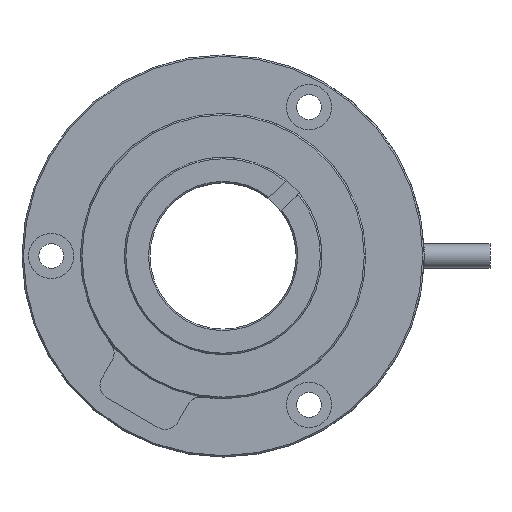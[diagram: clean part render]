
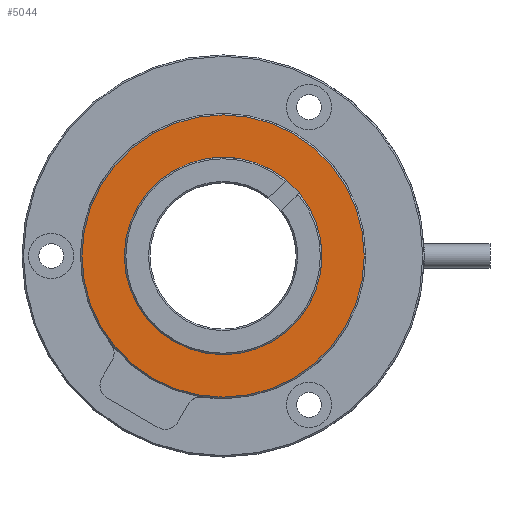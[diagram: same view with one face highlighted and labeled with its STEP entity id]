
A CAD part, front view. The second image highlights one B-rep face of the part: STEP entity #5044.
In plain terms, the highlighted planar face has unit normal (0, -1, 0).
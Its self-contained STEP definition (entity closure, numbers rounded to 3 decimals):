
#78 = DIRECTION ( 'NONE',  ( 0., 0., 1. ) ) ;
#435 = EDGE_CURVE ( 'NONE', #2929, #8805, #8440, .T. ) ;
#482 = EDGE_CURVE ( 'NONE', #4474, #5497, #2360, .T. ) ;
#662 = ORIENTED_EDGE ( 'NONE', *, *, #435, .T. ) ;
#771 = CIRCLE ( 'NONE', #2192, 19.3 ) ;
#1198 = DIRECTION ( 'NONE',  ( 0., 0., 1. ) ) ;
#1244 = FACE_OUTER_BOUND ( 'NONE', #10852, .T. ) ;
#2192 = AXIS2_PLACEMENT_3D ( 'NONE', #6435, #8035, #7975 ) ;
#2234 = FACE_BOUND ( 'NONE', #8830, .T. ) ;
#2360 = CIRCLE ( 'NONE', #5231, 13.5 ) ;
#2430 = ORIENTED_EDGE ( 'NONE', *, *, #2576, .F. ) ;
#2576 = EDGE_CURVE ( 'NONE', #5497, #4474, #8026, .T. ) ;
#2929 = VERTEX_POINT ( 'NONE', #5572 ) ;
#3080 = DIRECTION ( 'NONE',  ( 0., 1., 0. ) ) ;
#3208 = AXIS2_PLACEMENT_3D ( 'NONE', #6428, #8293, #7345 ) ;
#3258 = DIRECTION ( 'NONE',  ( 0., -1., 0. ) ) ;
#4474 = VERTEX_POINT ( 'NONE', #11032 ) ;
#4955 = CARTESIAN_POINT ( 'NONE',  ( 0., -7.3, -13.5 ) ) ;
#5044 = ADVANCED_FACE ( 'NONE', ( #1244, #2234 ), #10682, .F. ) ;
#5094 = CARTESIAN_POINT ( 'NONE',  ( 0., -7.3, 0. ) ) ;
#5231 = AXIS2_PLACEMENT_3D ( 'NONE', #9209, #5800, #78 ) ;
#5497 = VERTEX_POINT ( 'NONE', #4955 ) ;
#5572 = CARTESIAN_POINT ( 'NONE',  ( 0., -7.3, -19.3 ) ) ;
#5800 = DIRECTION ( 'NONE',  ( 0., -1., 0. ) ) ;
#6428 = CARTESIAN_POINT ( 'NONE',  ( 0., -7.3, 0. ) ) ;
#6435 = CARTESIAN_POINT ( 'NONE',  ( 0., -7.3, 0. ) ) ;
#6437 = ORIENTED_EDGE ( 'NONE', *, *, #6965, .T. ) ;
#6965 = EDGE_CURVE ( 'NONE', #8805, #2929, #771, .T. ) ;
#7345 = DIRECTION ( 'NONE',  ( 0., 0., 1. ) ) ;
#7422 = AXIS2_PLACEMENT_3D ( 'NONE', #9928, #3080, #1198 ) ;
#7539 = CARTESIAN_POINT ( 'NONE',  ( 0., -7.3, 19.3 ) ) ;
#7975 = DIRECTION ( 'NONE',  ( 0., 0., 1. ) ) ;
#8026 = CIRCLE ( 'NONE', #3208, 13.5 ) ;
#8035 = DIRECTION ( 'NONE',  ( 0., -1., 0. ) ) ;
#8293 = DIRECTION ( 'NONE',  ( 0., -1., 0. ) ) ;
#8440 = CIRCLE ( 'NONE', #9699, 19.3 ) ;
#8499 = DIRECTION ( 'NONE',  ( 0., 0., 1. ) ) ;
#8805 = VERTEX_POINT ( 'NONE', #7539 ) ;
#8830 = EDGE_LOOP ( 'NONE', ( #9935, #2430 ) ) ;
#9209 = CARTESIAN_POINT ( 'NONE',  ( 0., -7.3, 0. ) ) ;
#9699 = AXIS2_PLACEMENT_3D ( 'NONE', #5094, #3258, #8499 ) ;
#9928 = CARTESIAN_POINT ( 'NONE',  ( 0., -7.3, 0. ) ) ;
#9935 = ORIENTED_EDGE ( 'NONE', *, *, #482, .F. ) ;
#10682 = PLANE ( 'NONE',  #7422 ) ;
#10852 = EDGE_LOOP ( 'NONE', ( #6437, #662 ) ) ;
#11032 = CARTESIAN_POINT ( 'NONE',  ( 0., -7.3, 13.5 ) ) ;
